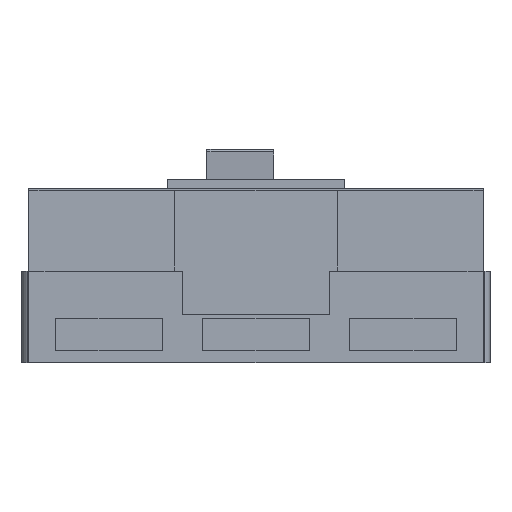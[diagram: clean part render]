
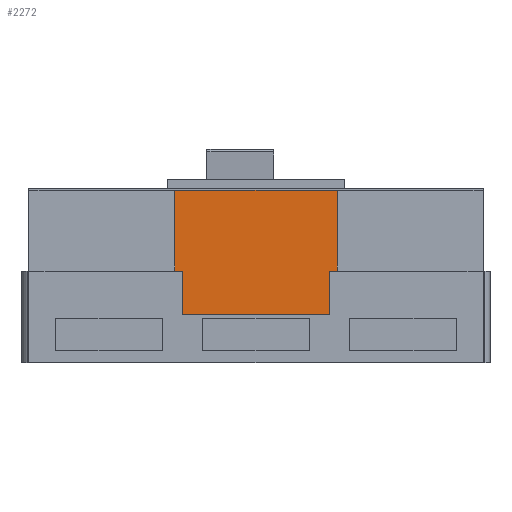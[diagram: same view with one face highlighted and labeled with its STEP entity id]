
A CAD part, front view. The second image highlights one B-rep face of the part: STEP entity #2272.
In plain terms, the highlighted planar face has unit normal (0, -1, 0).
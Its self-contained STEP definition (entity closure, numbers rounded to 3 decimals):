
#163 = DIRECTION ( 'NONE',  ( 1., 0., 0. ) ) ;
#288 = LINE ( 'NONE', #5207, #3466 ) ;
#427 = VECTOR ( 'NONE', #1447, 1000. ) ;
#433 = LINE ( 'NONE', #666, #4862 ) ;
#470 = CARTESIAN_POINT ( 'NONE',  ( 143.7, 48.3, 45. ) ) ;
#508 = VERTEX_POINT ( 'NONE', #2134 ) ;
#513 = ORIENTED_EDGE ( 'NONE', *, *, #1381, .T. ) ;
#592 = VERTEX_POINT ( 'NONE', #2047 ) ;
#610 = CARTESIAN_POINT ( 'NONE',  ( 136.5, 48.3, 86. ) ) ;
#613 = VERTEX_POINT ( 'NONE', #2904 ) ;
#616 = CARTESIAN_POINT ( 'NONE',  ( 136.5, 48.3, -73.489 ) ) ;
#629 = DIRECTION ( 'NONE',  ( 0., 1., 0. ) ) ;
#641 = DIRECTION ( 'NONE',  ( 0., 0., 1. ) ) ;
#666 = CARTESIAN_POINT ( 'NONE',  ( 288.5, 48.3, -73.489 ) ) ;
#768 = DIRECTION ( 'NONE',  ( -1., 0., 0. ) ) ;
#837 = CARTESIAN_POINT ( 'NONE',  ( 136.5, 48.3, 86. ) ) ;
#890 = DIRECTION ( 'NONE',  ( 0., 0., 1. ) ) ;
#1059 = EDGE_CURVE ( 'NONE', #1384, #4576, #433, .T. ) ;
#1061 = LINE ( 'NONE', #4936, #4134 ) ;
#1271 = VERTEX_POINT ( 'NONE', #837 ) ;
#1381 = EDGE_CURVE ( 'NONE', #613, #1384, #2776, .T. ) ;
#1384 = VERTEX_POINT ( 'NONE', #3944 ) ;
#1439 = EDGE_CURVE ( 'NONE', #592, #613, #288, .T. ) ;
#1447 = DIRECTION ( 'NONE',  ( 1., 0., 0. ) ) ;
#1725 = EDGE_CURVE ( 'NONE', #1271, #2756, #3511, .T. ) ;
#1750 = LINE ( 'NONE', #470, #2863 ) ;
#1817 = DIRECTION ( 'NONE',  ( 0., 0., 1. ) ) ;
#1914 = ORIENTED_EDGE ( 'NONE', *, *, #5266, .F. ) ;
#1941 = LINE ( 'NONE', #5111, #2930 ) ;
#1956 = AXIS2_PLACEMENT_3D ( 'NONE', #616, #629, #3534 ) ;
#2001 = ORIENTED_EDGE ( 'NONE', *, *, #2962, .T. ) ;
#2047 = CARTESIAN_POINT ( 'NONE',  ( 281.3, 48.3, 45. ) ) ;
#2134 = CARTESIAN_POINT ( 'NONE',  ( 136.5, 48.3, 161.8 ) ) ;
#2218 = ORIENTED_EDGE ( 'NONE', *, *, #4822, .F. ) ;
#2272 = ADVANCED_FACE ( 'NONE', ( #4243 ), #4365, .F. ) ;
#2730 = CARTESIAN_POINT ( 'NONE',  ( 143.7, 48.3, 45. ) ) ;
#2756 = VERTEX_POINT ( 'NONE', #4175 ) ;
#2776 = LINE ( 'NONE', #610, #427 ) ;
#2863 = VECTOR ( 'NONE', #890, 1000. ) ;
#2904 = CARTESIAN_POINT ( 'NONE',  ( 281.3, 48.3, 86. ) ) ;
#2930 = VECTOR ( 'NONE', #3439, 1000. ) ;
#2939 = VECTOR ( 'NONE', #1817, 1000. ) ;
#2962 = EDGE_CURVE ( 'NONE', #4576, #508, #1941, .T. ) ;
#2987 = CARTESIAN_POINT ( 'NONE',  ( 288.5, 48.3, 161.8 ) ) ;
#3001 = ORIENTED_EDGE ( 'NONE', *, *, #4090, .F. ) ;
#3011 = ORIENTED_EDGE ( 'NONE', *, *, #1725, .T. ) ;
#3060 = LINE ( 'NONE', #4733, #2939 ) ;
#3154 = DIRECTION ( 'NONE',  ( 0., 0., 1. ) ) ;
#3439 = DIRECTION ( 'NONE',  ( -1., 0., 0. ) ) ;
#3466 = VECTOR ( 'NONE', #641, 1000. ) ;
#3511 = LINE ( 'NONE', #5152, #4509 ) ;
#3518 = ORIENTED_EDGE ( 'NONE', *, *, #1439, .T. ) ;
#3534 = DIRECTION ( 'NONE',  ( 0., 0., 1. ) ) ;
#3744 = ORIENTED_EDGE ( 'NONE', *, *, #1059, .T. ) ;
#3889 = EDGE_LOOP ( 'NONE', ( #3011, #2218, #1914, #3518, #513, #3744, #2001, #3001 ) ) ;
#3944 = CARTESIAN_POINT ( 'NONE',  ( 288.5, 48.3, 86. ) ) ;
#4090 = EDGE_CURVE ( 'NONE', #1271, #508, #3060, .T. ) ;
#4134 = VECTOR ( 'NONE', #768, 1000. ) ;
#4175 = CARTESIAN_POINT ( 'NONE',  ( 143.7, 48.3, 86. ) ) ;
#4243 = FACE_OUTER_BOUND ( 'NONE', #3889, .T. ) ;
#4365 = PLANE ( 'NONE',  #1956 ) ;
#4509 = VECTOR ( 'NONE', #163, 1000. ) ;
#4576 = VERTEX_POINT ( 'NONE', #2987 ) ;
#4733 = CARTESIAN_POINT ( 'NONE',  ( 136.5, 48.3, -73.489 ) ) ;
#4822 = EDGE_CURVE ( 'NONE', #5356, #2756, #1750, .T. ) ;
#4862 = VECTOR ( 'NONE', #3154, 1000. ) ;
#4936 = CARTESIAN_POINT ( 'NONE',  ( 143.7, 48.3, 45. ) ) ;
#5111 = CARTESIAN_POINT ( 'NONE',  ( 136.5, 48.3, 161.8 ) ) ;
#5152 = CARTESIAN_POINT ( 'NONE',  ( 136.5, 48.3, 86. ) ) ;
#5207 = CARTESIAN_POINT ( 'NONE',  ( 281.3, 48.3, 45. ) ) ;
#5266 = EDGE_CURVE ( 'NONE', #592, #5356, #1061, .T. ) ;
#5356 = VERTEX_POINT ( 'NONE', #2730 ) ;
